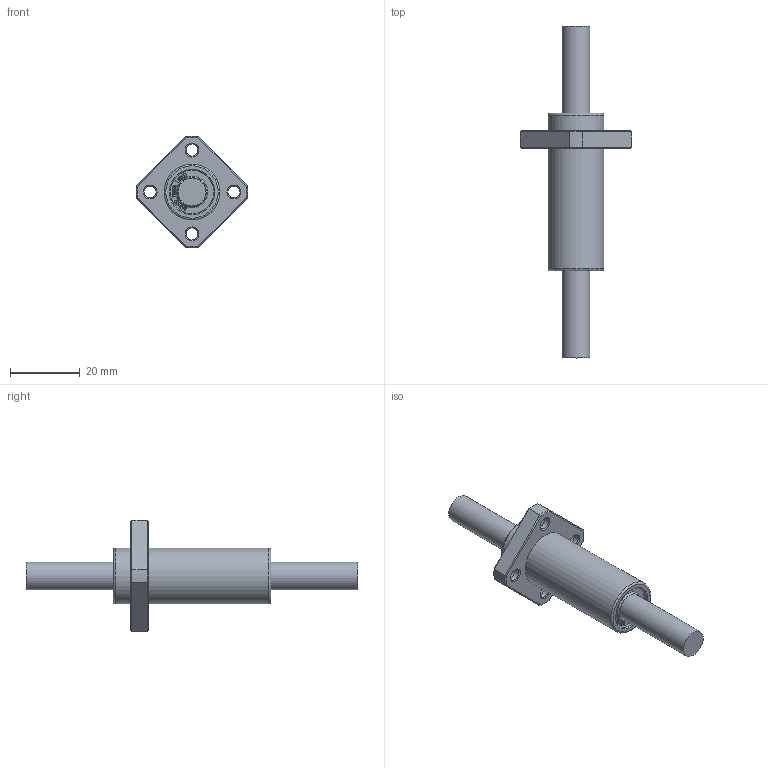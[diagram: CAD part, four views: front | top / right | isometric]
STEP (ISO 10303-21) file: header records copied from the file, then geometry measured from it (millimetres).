
FILE_DESCRIPTION(/* description */ (''),/* implementation_level */ '2;1');
FILE_NAME(/* name */ 'W:\(01) 2024년 홈페이지 CAD파일 최신화\LMEKP_L\IPT\LMEKP08LUU.stp',/* time_stamp */ '2025-01-25T13:04:13+09:00',/* author */ ('서우현'),/* organization */ (''),/* preprocessor_version */ 'ST-DEVELOPER v17.2',/* originating_system */ 'Autodesk Inventor 2019',/* authorisation */ '');
FILE_SCHEMA (('AUTOMOTIVE_DESIGN { 1 0 10303 214 3 1 1 }'));
Length unit declared in the file: millimetre
Products named in the file (1): LM5
Bounding box: 31.98 x 95 x 31.98 mm (x, y, z)
Volume: 12934.9 mm3; surface area: 5311.5 mm2
Topology: 1 solids, 1 shells, 852 faces, 2382 edges, 1588 vertices
Faces by surface type: bspline 580, plane 232, cone 20, cylinder 18, torus 2
Full cylindrical faces by diameter (mm): 3.4 x4, 6.5 x4, 8 x2, 12.4 x2, 16 x2
Entity records: 29157 total; most frequent: CARTESIAN_POINT 10759, ORIENTED_EDGE 4764, EDGE_CURVE 2382, DIRECTION 1842, VERTEX_POINT 1588, B_SPLINE_CURVE_WITH_KNOTS 1160, LINE 1116, VECTOR 1116
